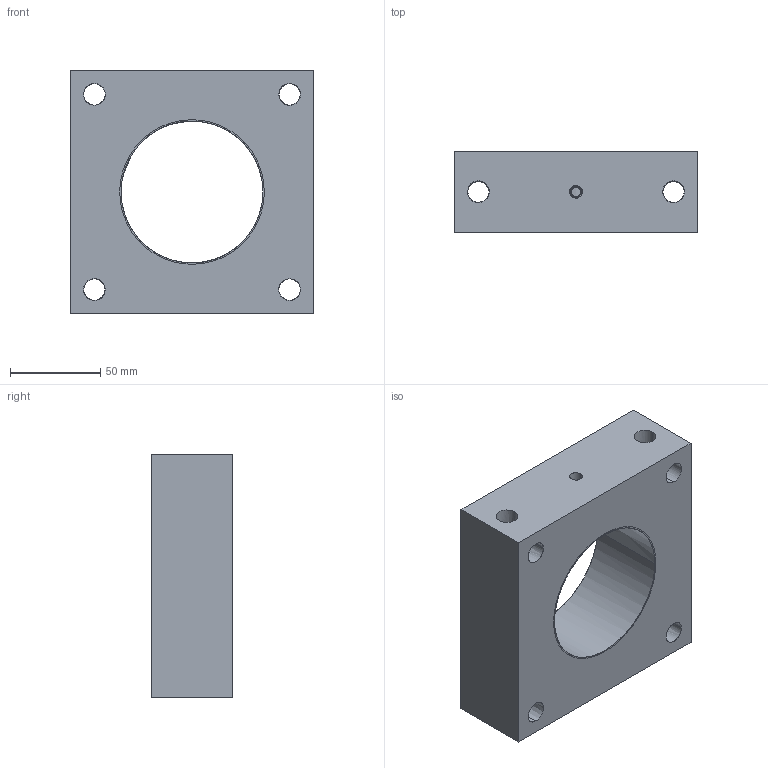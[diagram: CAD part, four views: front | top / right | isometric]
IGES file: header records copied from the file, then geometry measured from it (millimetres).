
Start section:  PTC IGES file: mf_802.igs
Global section: file name: mf_802.igs; native system: Pro/ENGINEER by Parametric Technology Corporation; preprocessor: 2010040; author: chad.steele; organization: Unknown; date: 20100922.110745; units: millimetre
Bounding box: 135 x 45 x 135 mm (x, y, z)
Surface area: 87780.9 mm2 (no closed solid volume)
Topology: 0 solids, 0 shells, 47 faces, 250 edges, 256 vertices
Faces by surface type: revolution 40, bspline 7
